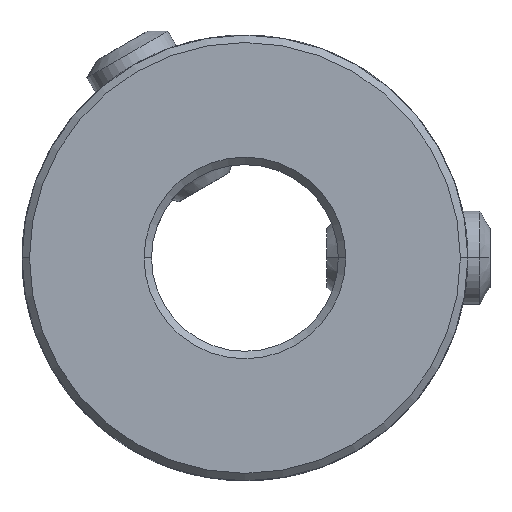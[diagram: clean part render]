
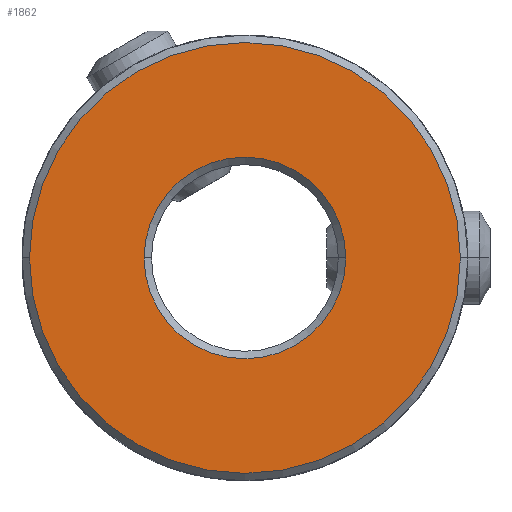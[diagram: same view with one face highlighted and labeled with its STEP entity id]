
A CAD part, front view. The second image highlights one B-rep face of the part: STEP entity #1862.
In plain terms, the highlighted planar face has unit normal (0, -1, 0).
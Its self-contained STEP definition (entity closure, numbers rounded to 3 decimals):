
#2=CARTESIAN_POINT('',(0.,-11.45,0.));
#3=DIRECTION('',(0.,-1.,0.));
#4=DIRECTION('',(1.,0.,0.));
#5=AXIS2_PLACEMENT_3D('',#2,#3,#4);
#7=CARTESIAN_POINT('',(0.,-11.45,
0.));
#8=DIRECTION('',(0.,-1.,0.));
#9=DIRECTION('',(-1.,0.,0.));
#10=AXIS2_PLACEMENT_3D('',#7,#8,#9);
#12=CARTESIAN_POINT('',(0.,-11.45,0.));
#13=DIRECTION('',(0.,1.,0.));
#14=DIRECTION('',(1.,0.,0.));
#15=AXIS2_PLACEMENT_3D('',#12,#13,#14);
#17=CARTESIAN_POINT('',(0.,-11.45,0.));
#18=DIRECTION('',(0.,1.,0.));
#19=DIRECTION('',(-1.,0.,0.));
#20=AXIS2_PLACEMENT_3D('',#17,#18,#19);
#1707=CARTESIAN_POINT('',(4.32,-11.45,0.));
#1708=CARTESIAN_POINT('',(-4.32,-11.45,0.));
#1709=VERTEX_POINT('',#1707);
#1710=VERTEX_POINT('',#1708);
#1723=CARTESIAN_POINT('',(9.23,-11.45,0.));
#1724=CARTESIAN_POINT('',(-9.23,-11.45,0.));
#1725=VERTEX_POINT('',#1723);
#1726=VERTEX_POINT('',#1724);
#1845=CARTESIAN_POINT('',(0.,-11.45,0.));
#1846=DIRECTION('',(0.,1.,0.));
#1847=DIRECTION('',(1.,0.,0.));
#1848=AXIS2_PLACEMENT_3D('',#1845,#1846,#1847);
#1849=PLANE('',#1848);
#1851=ORIENTED_EDGE('',*,*,#1850,.F.);
#1853=ORIENTED_EDGE('',*,*,#1852,.F.);
#1854=EDGE_LOOP('',(#1851,#1853));
#1855=FACE_OUTER_BOUND('',#1854,.F.);
#1857=ORIENTED_EDGE('',*,*,#1856,.F.);
#1859=ORIENTED_EDGE('',*,*,#1858,.F.);
#1860=EDGE_LOOP('',(#1857,#1859));
#1861=FACE_BOUND('',#1860,.F.);
#1862=ADVANCED_FACE('',(#1855,#1861),#1849,.F.);
#6=CIRCLE('',#5,9.23);
#11=CIRCLE('',#10,9.23);
#16=CIRCLE('',#15,4.32);
#21=CIRCLE('',#20,4.32);
#1850=EDGE_CURVE('',#1725,#1726,#6,.T.);
#1852=EDGE_CURVE('',#1726,#1725,#11,.T.);
#1856=EDGE_CURVE('',#1709,#1710,#16,.T.);
#1858=EDGE_CURVE('',#1710,#1709,#21,.T.);
